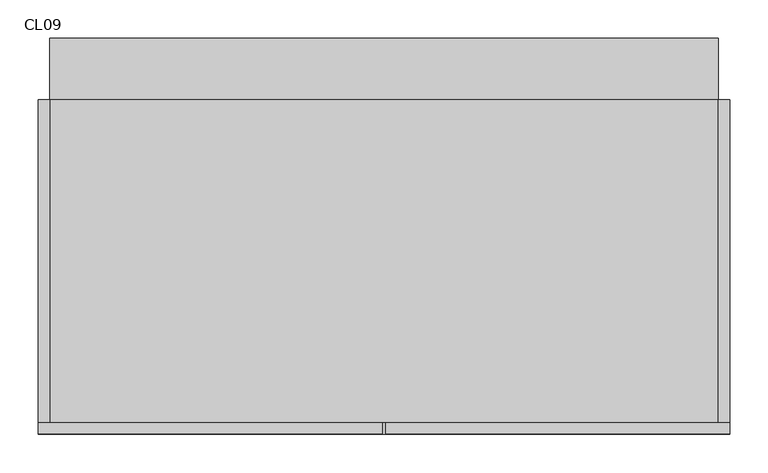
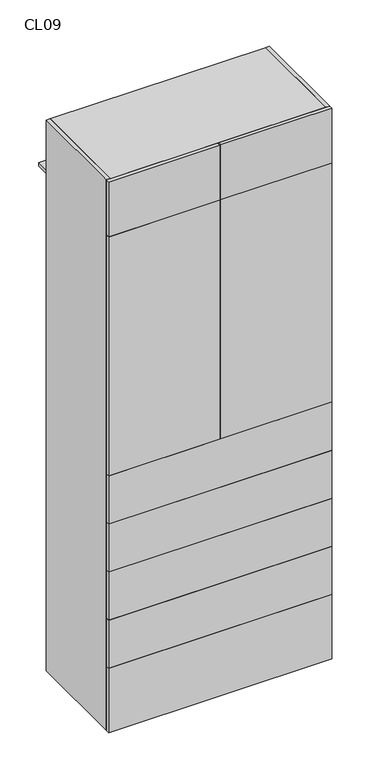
"""IFC4 building model written with IfcOpenShell, lengths in millimetres: furniture geometry, Closet 5cajones-inf_2puertas-sup : CL09."""

import ifcopenshell
import ifcopenshell.guid

model = None  # the IFC model being written
_history = None  # IfcOwnerHistory: only IFC2X3 demands one
_inside = {}  # id of a spatial element -> (the spatial element, [elements in it])
_under = {}  # id of a project, library or spatial element -> (it, [spatial elements below it])
_declared = {}  # id of a project -> (the project, [libraries it declares])
_typed = {}  # id of a type object -> (the type object, [elements of that type])
_made_of = {}  # id of a material, layer set ... -> (it, [elements and type objects made of it])


def new_model(schema):
    """Start an empty IFC model of exactly this schema.

    Asked for "IFC4X3", IfcOpenShell would pick the latest addendum, in which some entities
    have other attributes; the version numbers below select the first issue.
    IFC2X3 requires an IfcOwnerHistory on every rooted entity: one is made here for all.
    """
    global model, _history
    if schema == "IFC4X3":
        model = ifcopenshell.file(schema_version=(4, 3, 0, 0))
    else:
        model = ifcopenshell.file(schema=schema)
    _inside.clear()
    _under.clear()
    _declared.clear()
    _typed.clear()
    _made_of.clear()
    _history = None
    if model.schema == "IFC2X3":
        org = make("IfcOrganization", Name="unknown")
        user = make(
            "IfcPersonAndOrganization",
            ThePerson=make("IfcPerson", FamilyName="unknown"),
            TheOrganization=org,
        )
        app = make(
            "IfcApplication",
            ApplicationDeveloper=org,
            Version="unknown",
            ApplicationFullName="unknown",
            ApplicationIdentifier="unknown",
        )
        _history = make(
            "IfcOwnerHistory",
            OwningUser=user,
            OwningApplication=app,
            ChangeAction="ADDED",
            CreationDate=0,
        )
    return model


def make(cls, **values):
    """One entity of the class cls with the attributes given. An attribute that is None is left unset."""
    return model.create_entity(
        cls, **{name: value for name, value in values.items() if value is not None}
    )


def rooted(cls, **values):
    """An entity with a GlobalId (a new one), such as an element, a storey or a relation."""
    return make(cls, GlobalId=ifcopenshell.guid.new(), OwnerHistory=_history, **values)


def si_unit(unit_type, name, prefix=None):
    """IfcSIUnit, for example si_unit("LENGTHUNIT", "METRE", prefix="MILLI")."""
    return make("IfcSIUnit", UnitType=unit_type, Prefix=prefix, Name=name)


def assignment(units):
    """IfcUnitAssignment: the units of a project."""
    return None if units is None else make("IfcUnitAssignment", Units=units)


def point(xyz):
    """IfcCartesianPoint."""
    return None if xyz is None else make("IfcCartesianPoint", Coordinates=xyz)


def direction(xyz):
    """IfcDirection."""
    return None if xyz is None else make("IfcDirection", DirectionRatios=xyz)


def frame(location, z_axis=None, x_axis=None):
    """IfcAxis2Placement3D, a coordinate frame: its origin and axes. An axis left out is left unset."""
    return make(
        "IfcAxis2Placement3D",
        Location=point(location),
        Axis=direction(z_axis),
        RefDirection=direction(x_axis),
    )


def origin():
    """The frame at (0, 0, 0) with its axes left unset."""
    return frame((0.0, 0.0, 0.0))


def origin_with_axes():
    """The frame at (0, 0, 0) with the z axis (0, 0, 1) and the x axis (1, 0, 0) written out."""
    return frame((0.0, 0.0, 0.0), z_axis=(0.0, 0.0, 1.0), x_axis=(1.0, 0.0, 0.0))


def place(relative_to, where):
    """IfcLocalPlacement: puts the frame where relative to a parent placement (None: the world)."""
    return make(
        "IfcLocalPlacement", PlacementRelTo=relative_to, RelativePlacement=where
    )


def context(
    kind, dimensions, precision=None, world=None, true_north=None, identifier=None
):
    """IfcGeometricRepresentationContext, for example the 3D "Model" context."""
    return make(
        "IfcGeometricRepresentationContext",
        ContextIdentifier=identifier,
        ContextType=kind,
        CoordinateSpaceDimension=dimensions,
        Precision=precision,
        WorldCoordinateSystem=world,
        TrueNorth=true_north,
    )


def project(units=None, contexts=None):
    """IfcProject with its units and contexts."""
    return rooted(
        "IfcProject",
        Name="project",
        RepresentationContexts=contexts,
        UnitsInContext=assignment(units),
    )


def spatial(cls, under=None, at=None, **own):
    """A site, building, storey or space (cls), placed at a placement, below another one or the project."""
    s = rooted(cls, ObjectPlacement=at, **own)
    if under is not None:
        _under.setdefault(under.id(), (under, []))[1].append(s)
    return s


def polyline(points):
    """IfcPolyline through the points."""
    return make("IfcPolyline", Points=[point(p) for p in points])


def outline(outer, holes=None, kind="AREA"):
    """IfcArbitraryClosedProfileDef: a profile drawn as a closed curve; with holes, ...WithVoids."""
    if holes is None:
        return make("IfcArbitraryClosedProfileDef", ProfileType=kind, OuterCurve=outer)
    return make(
        "IfcArbitraryProfileDefWithVoids",
        ProfileType=kind,
        OuterCurve=outer,
        InnerCurves=holes,
    )


def extrude(swept, where, along, depth):
    """IfcExtrudedAreaSolid: the profile swept, set in the frame where, extruded along a direction by depth."""
    return make(
        "IfcExtrudedAreaSolid",
        SweptArea=swept,
        Position=where,
        ExtrudedDirection=direction(along),
        Depth=depth,
    )


def shape(context_of_items, identifier, shape_type, items):
    """IfcShapeRepresentation: the items that make up one representation, for example the "Body"."""
    return make(
        "IfcShapeRepresentation",
        ContextOfItems=context_of_items,
        RepresentationIdentifier=identifier,
        RepresentationType=shape_type,
        Items=items,
    )


def source(mapping_origin, context_of_items, identifier, shape_type, items):
    """IfcRepresentationMap: a shape defined once, which mapped items show again and again."""
    return make(
        "IfcRepresentationMap",
        MappingOrigin=mapping_origin,
        MappedRepresentation=shape(context_of_items, identifier, shape_type, items),
    )


def transform(
    local_origin,
    x_axis=None,
    y_axis=None,
    z_axis=None,
    scale=None,
    scale2=None,
    scale3=None,
    uniform=True,
):
    """IfcCartesianTransformationOperator3D, or its non-uniform kind. x_axis, y_axis, z_axis: its Axis1, 2, 3."""
    if uniform:
        return make(
            "IfcCartesianTransformationOperator3D",
            Axis1=direction(x_axis),
            Axis2=direction(y_axis),
            LocalOrigin=point(local_origin),
            Scale=scale,
            Axis3=direction(z_axis),
        )
    return make(
        "IfcCartesianTransformationOperator3DnonUniform",
        Axis1=direction(x_axis),
        Axis2=direction(y_axis),
        LocalOrigin=point(local_origin),
        Scale=scale,
        Axis3=direction(z_axis),
        Scale2=scale2,
        Scale3=scale3,
    )


def mapped(mapping_source, mapping_target):
    """IfcMappedItem: shows the shape of a source again, moved by a transform."""
    return make(
        "IfcMappedItem", MappingSource=mapping_source, MappingTarget=mapping_target
    )


def made_of(thing, what):
    """Note that an element or type object is made of a material, layer set ...; save() writes the relation."""
    if what is not None:
        _made_of.setdefault(what.id(), (what, []))[1].append(thing)
    return thing


def element(
    cls,
    number,
    at=None,
    inside=None,
    cuts=None,
    type_object=None,
    material=None,
    context=None,
    identifier="Body",
    shape_type=None,
    held_by="IfcProductDefinitionShape",
    body=None,
    shapes=None,
    **own,
):
    """One element of the class cls, such as IfcWall. Its Tag is "e" and its number.

    at: its placement. inside: the storey or other place that contains it. cuts: it is an
    opening in that element (IfcRelVoidsElement). A single representation is given by context,
    identifier, shape_type and body (its items); several are given by shapes. held_by: the class
    of the entity that holds the representations. save() writes the other relations.
    """
    e = rooted(cls, Tag="e%d" % number, ObjectPlacement=at, **own)
    if body is not None:
        shapes = [shape(context, identifier, shape_type, body)]
    if shapes is not None:
        e.Representation = make(held_by, Representations=shapes)
    if inside is not None:
        _inside.setdefault(inside.id(), (inside, []))[1].append(e)
    if cuts is not None:
        rooted(
            "IfcRelVoidsElement", RelatingBuildingElement=cuts, RelatedOpeningElement=e
        )
    if type_object is not None:
        _typed.setdefault(type_object.id(), (type_object, []))[1].append(e)
    return made_of(e, material)


def aggregate(whole, parts):
    """IfcRelAggregates: a whole, such as a stair, and the parts it consists of."""
    return rooted("IfcRelAggregates", RelatingObject=whole, RelatedObjects=parts)


def save(model, path):
    """Write the relations noted so far, then the file.

    IfcRelAggregates (storeys below a building ...), IfcRelContainedInSpatialStructure (elements
    in a storey), IfcRelDefinesByType, IfcRelAssociatesMaterial and IfcRelDeclares: one each for
    every whole, place, type object, material and project.
    """
    for whole, parts in _under.values():
        aggregate(whole, parts)
    for where, things in _inside.values():
        rooted(
            "IfcRelContainedInSpatialStructure",
            RelatedElements=things,
            RelatingStructure=where,
        )
    for kind, things in _typed.values():
        rooted("IfcRelDefinesByType", RelatedObjects=things, RelatingType=kind)
    for what, things in _made_of.values():
        rooted("IfcRelAssociatesMaterial", RelatedObjects=things, RelatingMaterial=what)
    for by, libraries in _declared.values():
        rooted("IfcRelDeclares", RelatingContext=by, RelatedDefinitions=libraries)
    model.write(path)


def cl09_7ac340ba(model_context):
    return source(origin(), model_context, "Body", "SweptSolid", [
        extrude(outline(polyline([(450.0, 180.0), (435.0, 180.0), (435.0, 600.0), (450.0, 600.0), (450.0, 180.0)])), origin_with_axes(), (0.0, 0.0, 1.0), 2350.0),
        extrude(outline(polyline([(-435.0, 180.0), (-450.0, 180.0), (-450.0, 600.0), (-435.0, 600.0), (-435.0, 180.0)])), origin_with_axes(), (0.0, 0.0, 1.0), 2350.0),
        extrude(outline(polyline([(435.0, 180.0), (-435.0, 180.0), (-435.0, 680.0), (435.0, 680.0), (435.0, 180.0)])), frame((0.0, 0.0, 2100.0), z_axis=(0.0, 0.0, 1.0), x_axis=(1.0, 0.0, 0.0)), (0.0, 0.0, 1.0), 15.0),
        extrude(outline(polyline([(450.0, 180.0), (450.0, 165.0), (-450.0, 165.0), (-450.0, 180.0), (450.0, 180.0)])), frame((0.0, 0.0, 890.0), z_axis=(0.0, 0.0, 1.0), x_axis=(1.0, 0.0, 0.0)), (0.0, 0.0, 1.0), 205.0),
        extrude(outline(polyline([(450.0, 180.0), (450.0, 165.0), (-450.0, 165.0), (-450.0, 180.0), (450.0, 180.0)])), frame((0.0, 0.0, 685.0), z_axis=(0.0, 0.0, 1.0), x_axis=(1.0, 0.0, 0.0)), (0.0, 0.0, 1.0), 205.0),
        extrude(outline(polyline([(450.0, 180.0), (450.0, 165.0), (-450.0, 165.0), (-450.0, 180.0), (450.0, 180.0)])), frame((0.0, 0.0, 480.0), z_axis=(0.0, 0.0, 1.0), x_axis=(1.0, 0.0, 0.0)), (0.0, 0.0, 1.0), 205.0),
        extrude(outline(polyline([(450.0, 180.0), (450.0, 165.0), (-450.0, 165.0), (-450.0, 180.0), (450.0, 180.0)])), frame((0.0, 0.0, 275.0), z_axis=(0.0, 0.0, 1.0), x_axis=(1.0, 0.0, 0.0)), (0.0, 0.0, 1.0), 205.0),
        extrude(outline(polyline([(450.0, 180.0), (450.0, 165.0), (-450.0, 165.0), (-450.0, 180.0), (450.0, 180.0)])), origin_with_axes(), (0.0, 0.0, 1.0), 275.0),
        extrude(outline(polyline([(435.0, 180.0), (-435.0, 180.0), (-435.0, 600.0), (435.0, 600.0), (435.0, 180.0)])), frame((0.0, 0.0, 670.0), z_axis=(0.0, 0.0, 1.0), x_axis=(1.0, 0.0, 0.0)), (0.0, 0.0, 1.0), 15.0),
        extrude(outline(polyline([(435.0, 180.0), (-435.0, 180.0), (-435.0, 600.0), (435.0, 600.0), (435.0, 180.0)])), frame((0.0, 0.0, 260.0), z_axis=(0.0, 0.0, 1.0), x_axis=(1.0, 0.0, 0.0)), (0.0, 0.0, 1.0), 15.0),
        extrude(outline(polyline([(435.0, 180.0), (-435.0, 180.0), (-435.0, 600.0), (435.0, 600.0), (435.0, 180.0)])), frame((0.0, 0.0, 465.0), z_axis=(0.0, 0.0, 1.0), x_axis=(1.0, 0.0, 0.0)), (0.0, 0.0, 1.0), 15.0),
        extrude(outline(polyline([(435.0, 180.0), (-435.0, 180.0), (-435.0, 600.0), (435.0, 600.0), (435.0, 180.0)])), frame((0.0, 0.0, 875.0), z_axis=(0.0, 0.0, 1.0), x_axis=(1.0, 0.0, 0.0)), (0.0, 0.0, 1.0), 15.0),
        extrude(outline(polyline([(435.0, 180.0), (-435.0, 180.0), (-435.0, 600.0), (435.0, 600.0), (435.0, 180.0)])), frame((0.0, 0.0, 1080.0), z_axis=(0.0, 0.0, 1.0), x_axis=(1.0, 0.0, 0.0)), (0.0, 0.0, 1.0), 15.0),
        extrude(outline(polyline([(435.0, 180.0), (-435.0, 180.0), (-435.0, 600.0), (435.0, 600.0), (435.0, 180.0)])), frame((0.0, 0.0, 2335.0), z_axis=(0.0, 0.0, 1.0), x_axis=(1.0, 0.0, 0.0)), (0.0, 0.0, 1.0), 15.0),
        extrude(outline(polyline([(2.5, 165.0), (2.5, 180.0), (450.0, 180.0), (450.0, 165.0), (2.5, 165.0)])), frame((0.0, 0.0, 1095.0), z_axis=(0.0, 0.0, 1.0), x_axis=(1.0, 0.0, 0.0)), (0.0, 0.0, 1.0), 1020.0),
        extrude(outline(polyline([(-2.5, 180.0), (-2.5, 165.0), (-450.0, 165.0), (-450.0, 180.0), (-2.5, 180.0)])), frame((0.0, 0.0, 1095.0), z_axis=(0.0, 0.0, 1.0), x_axis=(1.0, 0.0, 0.0)), (0.0, 0.0, 1.0), 1020.0),
        extrude(outline(polyline([(2.5, 165.0), (2.5, 180.0), (450.0, 180.0), (450.0, 165.0), (2.5, 165.0)])), frame((0.0, 0.0, 2115.0), z_axis=(0.0, 0.0, 1.0), x_axis=(1.0, 0.0, 0.0)), (0.0, 0.0, 1.0), 235.0),
        extrude(outline(polyline([(-2.5, 180.0), (-2.5, 165.0), (-450.0, 165.0), (-450.0, 180.0), (-2.5, 180.0)])), frame((0.0, 0.0, 2115.0), z_axis=(0.0, 0.0, 1.0), x_axis=(1.0, 0.0, 0.0)), (0.0, 0.0, 1.0), 235.0),
    ])


if __name__ == "__main__":
    model = new_model("IFC4")
    model_context = context("Model", 3, world=origin())
    ifc_project = project(units=[si_unit("LENGTHUNIT", "METRE", prefix="MILLI")], contexts=[model_context])
    site = spatial("IfcSite", under=ifc_project)
    building = spatial("IfcBuilding", under=site)
    placement = place(None, origin())
    cl09_shape = cl09_7ac340ba(model_context)
    element("IfcFurniture", 1, ObjectType="Closet 5cajones-inf_2puertas-sup : CL09", at=placement, inside=building, context=model_context, shape_type="MappedRepresentation", body=[
        mapped(cl09_shape, transform((0.0, 0.0, 0.0), x_axis=(1.0, 0.0, 0.0), y_axis=(0.0, 1.0, 0.0), z_axis=(0.0, 0.0, 1.0))),
    ])
    save(model, "model.ifc")
